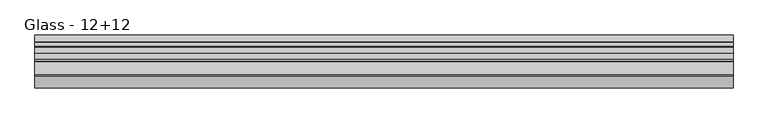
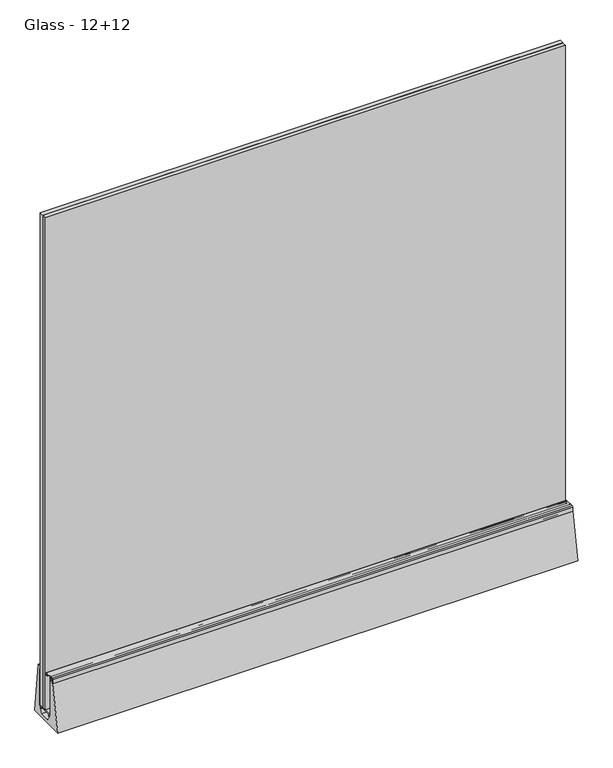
"""IFC4 building model written with IfcOpenShell, lengths in millimetres: proxy geometry, Construction_Slope-Glazing_Faraone_Linea-3-Maxi : Glass - 12+12."""

from ifc_helpers import new_model, si_unit, point, frame, frame_2d, origin, place, context, project, spatial, polyline, circle_curve, trimmed, segment, composite_curve, outline, extrude, source, transform, mapped, element, save


def glass_12_12_79b85a7c(model_context):
    return source(origin(), model_context, "Body", "SweptSolid", [
        extrude(outline(polyline([(750.0, 29.9536793), (750.0, 18.0036793), (-750.0, 18.0036793), (-750.0, 29.9536793), (750.0, 29.9536793)])), frame((0.0, 0.0, 32.9998941), z_axis=(0.0, 0.0, 1.0), x_axis=(1.0, 0.0, 0.0)), (0.0, 0.0, 1.0), 1500.0),
        extrude(outline(polyline([(750.0, 16.4036793), (750.0, 4.4536793), (-750.0, 4.4536793), (-750.0, 16.4036793), (750.0, 16.4036793)])), frame((0.0, 0.0, 32.9998941), z_axis=(0.0, 0.0, 1.0), x_axis=(1.0, 0.0, 0.0)), (0.0, 0.0, 1.0), 1500.0),
        extrude(outline(polyline([(27.9495501, 27.4998941), (28.9495501, 27.4998941), (27.9495501, 23.9998941), (25.4495501, 23.9998941), (25.4495501, 29.9998941), (-10.950381, 29.9998941), (-10.950381, 23.9998941), (-13.450381, 23.9998941), (-14.4501535, 27.4998941), (-13.450381, 27.4998941), (-13.450381, 30.0001664), (-16.4959153, 30.0001664), (-16.4959153, 32.9998941), (30.7553177, 32.9998941), (30.7553177, 140.9999202), (33.4499946, 140.9999202), (33.4499946, 29.9998941), (27.9495501, 29.9998941), (27.9495501, 27.4998941)])), frame((-750.0, 0.0, 0.0), z_axis=(1.0, 0.0, 0.0), x_axis=(0.0, 1.0, 0.0)), (0.0, 0.0, 1.0), 1500.0),
        extrude(outline(composite_curve([segment(trimmed(circle_curve(frame_2d((-0.5622607, 149.6202564)), 0.5), [point((-0.5622607, 150.1202564))], [point((-0.0622607, 149.6202564))], False, "CARTESIAN"), True, "CONTINUOUS"), segment(polyline([(-0.0622607, 149.6202564), (-0.0622607, 147.5116834), (-0.8559184, 147.5116834), (-0.8559184, 148.7592807), (-1.7540112, 148.7592807)]), True, "CONTINUOUS"), segment(trimmed(circle_curve(frame_2d((-1.7540112, 148.251018)), 0.5082627), [point((-1.7540112, 148.7592807))], [point((-2.2622739, 148.251018))], True, "CARTESIAN"), True, "CONTINUOUS"), segment(polyline([(-2.2622739, 148.251018), (-2.2622739, 143.7675435)]), True, "CONTINUOUS"), segment(trimmed(circle_curve(frame_2d((-1.7540112, 143.7675435)), 0.5082627), [point((-2.2622739, 143.7675435))], [point((-1.7540112, 143.2592807))], True, "CARTESIAN"), True, "CONTINUOUS"), segment(polyline([(-1.7540112, 143.2592807), (-0.8559184, 143.2592807), (-0.8559184, 144.5068781), (-0.0622607, 144.5068781), (-0.0622607, 142.5592807)]), True, "CONTINUOUS"), segment(trimmed(circle_curve(frame_2d((-0.5622607, 142.5592807)), 0.5), [point((-0.0622607, 142.5592807))], [point((-0.5622607, 142.0592807))], False, "CARTESIAN"), True, "CONTINUOUS"), segment(polyline([(-0.5622607, 142.0592807), (-2.9622736, 142.0592807)]), True, "CONTINUOUS"), segment(trimmed(circle_curve(frame_2d((-2.9622736, 142.559281)), 0.5000003), [point((-2.9622736, 142.0592807))], [point((-3.4622739, 142.559281))], False, "CARTESIAN"), True, "CONTINUOUS"), segment(polyline([(-3.4622739, 142.559281), (-3.4622739, 148.1202567)]), True, "CONTINUOUS"), segment(trimmed(circle_curve(frame_2d((-3.9622739, 148.1202567)), 0.5), [point((-3.4622739, 148.1202567))], [point((-3.9622739, 148.6202567))], True, "CARTESIAN"), True, "CONTINUOUS"), segment(polyline([(-3.9622739, 148.6202567), (-18.4381651, 148.6202569), (-18.4381651, 134.8497503), (-20.5252665, 134.8497503), (-20.5252665, 139.9087036), (-19.6381651, 139.9087036), (-19.6381651, 147.8202569)]), True, "CONTINUOUS"), segment(trimmed(circle_curve(frame_2d((-19.6381651, 148.2202569)), 0.4), [point((-19.6381651, 147.8202569))], [point((-19.6381651, 148.6202569))], True, "CARTESIAN"), True, "CONTINUOUS"), segment(polyline([(-19.6381651, 148.6202569), (-28.9632186, 148.6202569)]), True, "CONTINUOUS"), segment(trimmed(circle_curve(frame_2d((-28.9632186, 147.1202566)), 1.5000003), [point((-28.9632186, 148.6202569))], [point((-30.4632189, 147.1202566))], True, "CARTESIAN"), True, "CONTINUOUS"), segment(polyline([(-30.4632189, 147.1202566), (-30.4632189, 139.9087036), (-29.5827199, 139.9087036), (-29.5827199, 134.8497503), (-31.6632189, 134.8505456), (-31.6632189, 147.1202564)]), True, "CONTINUOUS"), segment(trimmed(circle_curve(frame_2d((-28.6632189, 147.1202564)), 3.0), [point((-31.6632189, 147.1202564))], [point((-28.6632189, 150.1202564))], False, "CARTESIAN"), True, "CONTINUOUS"), segment(polyline([(-28.6632189, 150.1202564), (-0.5622607, 150.1202564)]), True, "CONTINUOUS")], self_intersect=False)), frame((-750.0, 0.0, 0.0), z_axis=(1.0, 0.0, 0.0), x_axis=(0.0, 1.0, 0.0)), (0.0, 0.0, 1.0), 1500.0),
        extrude(outline(composite_curve([segment(polyline([(-57.25, 0.0), (-31.812192, 134.8497503), (-29.5827199, 134.8497503), (-29.5827199, 141.7168813), (-20.5252665, 141.7168813), (-20.5252665, 134.8497503), (-18.9499762, 134.8497503), (-18.9499762, 30.0001664), (-13.9493491, 30.0001664), (-13.9493491, 28.0001664), (-19.2314658, 28.0001664), (-7.6590914, 11.0005351), (22.522986, 11.0002742), (33.5998649, 28.0000261), (28.4500912, 28.0000261), (28.4500912, 29.9998941), (33.4499946, 29.9998941), (33.4499271, 149.9042043), (40.4619354, 149.9042043)]), True, "CONTINUOUS"), segment(trimmed(circle_curve(frame_2d((40.4619354, 148.7574992)), 1.1467051), [point((40.4619354, 149.9042043))], [point((41.6023587, 148.8773626))], False, "CARTESIAN"), True, "CONTINUOUS"), segment(polyline([(41.6023587, 148.8773626), (57.25, 0.0), (-57.25, 0.0)]), True, "CONTINUOUS")], self_intersect=False)), frame((-750.0, 0.0, 0.0), z_axis=(1.0, 0.0, 0.0), x_axis=(0.0, 1.0, 0.0)), (0.0, 0.0, 1.0), 1500.0),
    ])


if __name__ == "__main__":
    model = new_model("IFC4")
    model_context = context("Model", 3, world=origin())
    ifc_project = project(units=[si_unit("LENGTHUNIT", "METRE", prefix="MILLI")], contexts=[model_context])
    site = spatial("IfcSite", under=ifc_project)
    building = spatial("IfcBuilding", under=site)
    placement = place(None, origin())
    glass_12_12_shape = glass_12_12_79b85a7c(model_context)
    element("IfcBuildingElementProxy", 1, Name="Construction_Slope-Glazing_Faraone_Linea-3-Maxi : Glass - 12+12", ObjectType="Construction_Slope-Glazing_Faraone_Linea-3-Maxi : Glass - 12+12", at=placement, inside=building, context=model_context, shape_type="MappedRepresentation", body=[
        mapped(glass_12_12_shape, transform((0.0, 0.0, 0.0), x_axis=(1.0, 0.0, 0.0), y_axis=(0.0, 1.0, 0.0), z_axis=(0.0, 0.0, 1.0))),
    ])
    save(model, "model.ifc")
